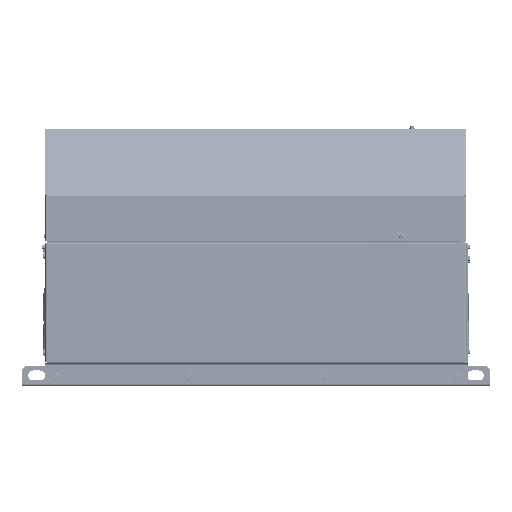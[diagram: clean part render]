
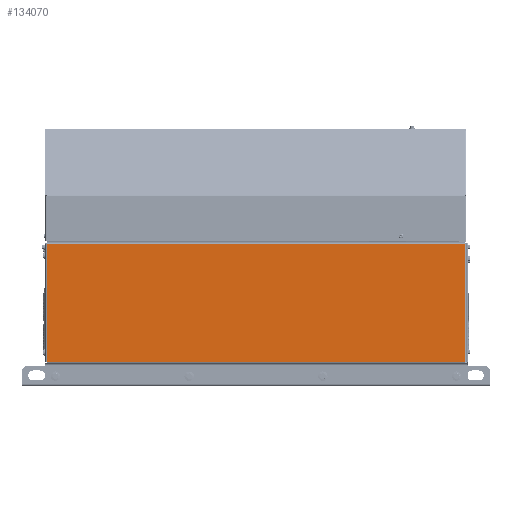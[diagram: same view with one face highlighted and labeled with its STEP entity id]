
A CAD part, left-side view. The second image highlights one B-rep face of the part: STEP entity #134070.
In plain terms, the highlighted planar face has unit normal (-1, 0, 0).
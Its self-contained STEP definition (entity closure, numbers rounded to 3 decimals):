
#7307=PLANE('',#142154);
#12477=FACE_OUTER_BOUND('',#20182,.T.);
#20182=EDGE_LOOP('',(#96428,#96429,#96430,#96431));
#29457=LINE('',#213430,#40880);
#29590=LINE('',#213831,#41013);
#29645=LINE('',#214223,#41068);
#29646=LINE('',#214224,#41069);
#40880=VECTOR('',#158935,10.);
#41013=VECTOR('',#159254,10.);
#41068=VECTOR('',#159405,10.);
#41069=VECTOR('',#159406,10.);
#57617=VERTEX_POINT('',#213419);
#57622=VERTEX_POINT('',#213428);
#57771=VERTEX_POINT('',#213818);
#57840=VERTEX_POINT('',#214222);
#71854=EDGE_CURVE('',#57617,#57622,#29457,.T.);
#72045=EDGE_CURVE('',#57622,#57771,#29590,.T.);
#72146=EDGE_CURVE('',#57617,#57840,#29645,.T.);
#72147=EDGE_CURVE('',#57840,#57771,#29646,.T.);
#96428=ORIENTED_EDGE('',*,*,#72146,.F.);
#96429=ORIENTED_EDGE('',*,*,#71854,.T.);
#96430=ORIENTED_EDGE('',*,*,#72045,.T.);
#96431=ORIENTED_EDGE('',*,*,#72147,.F.);
#134070=ADVANCED_FACE('',(#12477),#7307,.F.);
#142154=AXIS2_PLACEMENT_3D('',#214221,#159403,#159404);
#158935=DIRECTION('',(0.,1.,0.));
#159254=DIRECTION('',(0.,0.,-1.));
#159403=DIRECTION('center_axis',(1.,0.,0.));
#159404=DIRECTION('ref_axis',(0.,0.,
-1.));
#159405=DIRECTION('',(0.,0.,-1.));
#159406=DIRECTION('',(0.,1.,0.));
#213419=CARTESIAN_POINT('',(-225.,-312.7,212.7));
#213428=CARTESIAN_POINT('',(-225.,312.7,212.7));
#213430=CARTESIAN_POINT('',(-225.,315.,212.7));
#213818=CARTESIAN_POINT('',(-225.,312.7,36.353));
#213831=CARTESIAN_POINT('',(-225.,312.7,116.05));
#214221=CARTESIAN_POINT('Origin',(-225.,-315.,35.4));
#214222=CARTESIAN_POINT('',(-225.,-312.7,36.353));
#214223=CARTESIAN_POINT('',(-225.,-312.7,196.71));
#214224=CARTESIAN_POINT('',(-225.,-315.,36.353));
